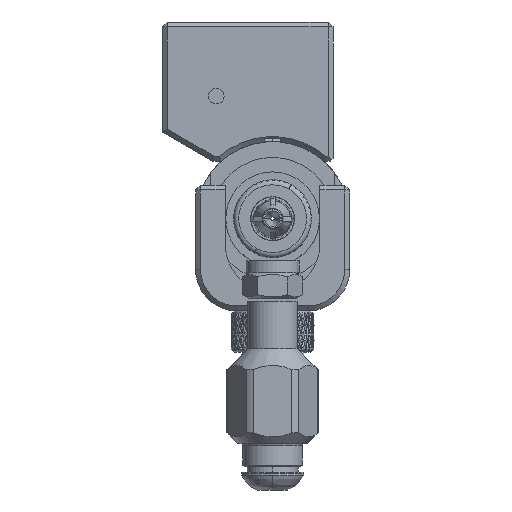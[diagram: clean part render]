
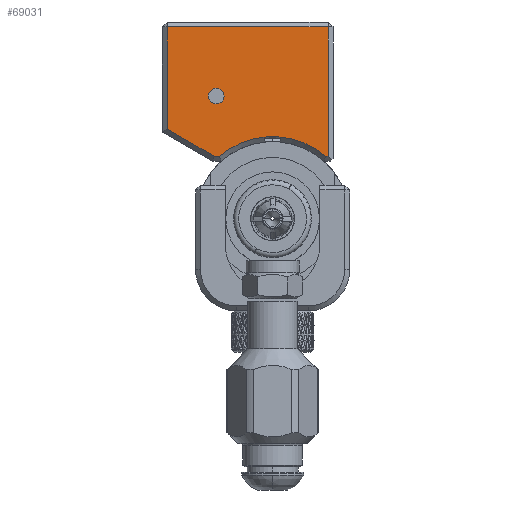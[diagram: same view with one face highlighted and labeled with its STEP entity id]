
A CAD part, front view. The second image highlights one B-rep face of the part: STEP entity #69031.
In plain terms, the highlighted planar face has unit normal (0, -1, 0).
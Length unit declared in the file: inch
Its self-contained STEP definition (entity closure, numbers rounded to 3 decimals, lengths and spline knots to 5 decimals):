
#232 = DIRECTION ( 'NONE',  ( 0., 1., 0. ) ) ;
#870 = LINE ( 'NONE', #6315, #66438 ) ;
#1528 = DIRECTION ( 'NONE',  ( 0., 0., 1. ) ) ;
#2540 = CIRCLE ( 'NONE', #12249, 0.495 ) ;
#3316 = ORIENTED_EDGE ( 'NONE', *, *, #59928, .T. ) ;
#3384 = FACE_OUTER_BOUND ( 'NONE', #20974, .T. ) ;
#3528 = EDGE_CURVE ( 'NONE', #36797, #46795, #70928, .T. ) ;
#5200 = VERTEX_POINT ( 'NONE', #53585 ) ;
#6315 = CARTESIAN_POINT ( 'NONE',  ( 0.335, -0.059, 0. ) ) ;
#7783 = ORIENTED_EDGE ( 'NONE', *, *, #57711, .T. ) ;
#7962 = DIRECTION ( 'NONE',  ( 0., 0., 1. ) ) ;
#8987 = VERTEX_POINT ( 'NONE', #55314 ) ;
#9013 = LINE ( 'NONE', #52123, #70142 ) ;
#11662 = ORIENTED_EDGE ( 'NONE', *, *, #20560, .T. ) ;
#12249 = AXIS2_PLACEMENT_3D ( 'NONE', #40272, #58035, #69884 ) ;
#13469 = EDGE_CURVE ( 'NONE', #60046, #47212, #67194, .T. ) ;
#14365 = VECTOR ( 'NONE', #19406, 39.37008 ) ;
#15680 = PLANE ( 'NONE',  #72030 ) ;
#17989 = EDGE_LOOP ( 'NONE', ( #3316, #31450 ) ) ;
#18047 = CARTESIAN_POINT ( 'NONE',  ( -0.34, -0.059, 0.74 ) ) ;
#18688 = CARTESIAN_POINT ( 'NONE',  ( 0., -0.059, 1.157 ) ) ;
#19406 = DIRECTION ( 'NONE',  ( -1., 0., 0. ) ) ;
#20560 = EDGE_CURVE ( 'NONE', #34057, #36797, #870, .T. ) ;
#20948 = CARTESIAN_POINT ( 'NONE',  ( 0., -0.059, 0. ) ) ;
#20974 = EDGE_LOOP ( 'NONE', ( #21608, #64689, #7783, #72840, #39106, #11662, #52220 ) ) ;
#21608 = ORIENTED_EDGE ( 'NONE', *, *, #28730, .T. ) ;
#22297 = VECTOR ( 'NONE', #52089, 39.37008 ) ;
#23725 = DIRECTION ( 'NONE',  ( 1., 0., 0. ) ) ;
#24509 = CARTESIAN_POINT ( 'NONE',  ( 0.335, -0.059, 1.157 ) ) ;
#27199 = AXIS2_PLACEMENT_3D ( 'NONE', #47905, #48163, #7962 ) ;
#27667 = FACE_BOUND ( 'NONE', #17989, .T. ) ;
#28730 = EDGE_CURVE ( 'NONE', #46795, #60046, #9013, .T. ) ;
#29071 = DIRECTION ( 'NONE',  ( 0., 0., 1. ) ) ;
#31450 = ORIENTED_EDGE ( 'NONE', *, *, #37245, .T. ) ;
#34057 = VERTEX_POINT ( 'NONE', #37646 ) ;
#34826 = LINE ( 'NONE', #58350, #45669 ) ;
#36797 = VERTEX_POINT ( 'NONE', #24509 ) ;
#36983 = AXIS2_PLACEMENT_3D ( 'NONE', #18047, #232, #29071 ) ;
#37245 = EDGE_CURVE ( 'NONE', #8987, #5200, #54943, .T. ) ;
#37646 = CARTESIAN_POINT ( 'NONE',  ( 0.335, -0.059, 0.37673 ) ) ;
#39106 = ORIENTED_EDGE ( 'NONE', *, *, #44173, .T. ) ;
#40168 = CIRCLE ( 'NONE', #27199, 0.04724 ) ;
#40272 = CARTESIAN_POINT ( 'NONE',  ( 0., -0.059, 0. ) ) ;
#41638 = CARTESIAN_POINT ( 'NONE',  ( 0.32109, -0.059, 0.37673 ) ) ;
#42010 = VECTOR ( 'NONE', #50969, 39.37008 ) ;
#44173 = EDGE_CURVE ( 'NONE', #61747, #34057, #34826, .T. ) ;
#44782 = LINE ( 'NONE', #74253, #22297 ) ;
#45669 = VECTOR ( 'NONE', #23725, 39.37008 ) ;
#46795 = VERTEX_POINT ( 'NONE', #73971 ) ;
#47212 = VERTEX_POINT ( 'NONE', #49749 ) ;
#47905 = CARTESIAN_POINT ( 'NONE',  ( -0.34, -0.059, 0.74 ) ) ;
#48163 = DIRECTION ( 'NONE',  ( 0., 1., 0. ) ) ;
#49749 = CARTESIAN_POINT ( 'NONE',  ( -0.35181, -0.059, 0.37673 ) ) ;
#50969 = DIRECTION ( 'NONE',  ( 0.866, 0., -0.5 ) ) ;
#52089 = DIRECTION ( 'NONE',  ( 1., 0., 0. ) ) ;
#52123 = CARTESIAN_POINT ( 'NONE',  ( -0.635, -0.059, 0. ) ) ;
#52220 = ORIENTED_EDGE ( 'NONE', *, *, #3528, .T. ) ;
#53585 = CARTESIAN_POINT ( 'NONE',  ( -0.34, -0.059, 0.78724 ) ) ;
#54943 = CIRCLE ( 'NONE', #36983, 0.04724 ) ;
#55147 = CARTESIAN_POINT ( 'NONE',  ( -0.635, -0.059, 0.54023 ) ) ;
#55314 = CARTESIAN_POINT ( 'NONE',  ( -0.34, -0.059, 0.69276 ) ) ;
#56017 = DIRECTION ( 'NONE',  ( 0., 0., 1. ) ) ;
#57711 = EDGE_CURVE ( 'NONE', #47212, #62755, #44782, .T. ) ;
#58035 = DIRECTION ( 'NONE',  ( 0., 1., 0. ) ) ;
#58350 = CARTESIAN_POINT ( 'NONE',  ( 0., -0.059, 0.37673 ) ) ;
#59332 = EDGE_CURVE ( 'NONE', #62755, #61747, #2540, .T. ) ;
#59928 = EDGE_CURVE ( 'NONE', #5200, #8987, #40168, .T. ) ;
#60046 = VERTEX_POINT ( 'NONE', #55147 ) ;
#61747 = VERTEX_POINT ( 'NONE', #41638 ) ;
#62104 = DIRECTION ( 'NONE',  ( 0., 1., 0. ) ) ;
#62755 = VERTEX_POINT ( 'NONE', #73610 ) ;
#62955 = DIRECTION ( 'NONE',  ( 0., 0., -1. ) ) ;
#64689 = ORIENTED_EDGE ( 'NONE', *, *, #13469, .T. ) ;
#66438 = VECTOR ( 'NONE', #1528, 39.37008 ) ;
#67194 = LINE ( 'NONE', #73636, #42010 ) ;
#69031 = ADVANCED_FACE ( 'NONE', ( #3384, #27667 ), #15680, .F. ) ;
#69884 = DIRECTION ( 'NONE',  ( 0., 0., 1. ) ) ;
#70142 = VECTOR ( 'NONE', #62955, 39.37008 ) ;
#70928 = LINE ( 'NONE', #18688, #14365 ) ;
#72030 = AXIS2_PLACEMENT_3D ( 'NONE', #20948, #62104, #56017 ) ;
#72840 = ORIENTED_EDGE ( 'NONE', *, *, #59332, .T. ) ;
#73610 = CARTESIAN_POINT ( 'NONE',  ( -0.32109, -0.059, 0.37673 ) ) ;
#73636 = CARTESIAN_POINT ( 'NONE',  ( 0.07518, -0.059, 0.13021 ) ) ;
#73971 = CARTESIAN_POINT ( 'NONE',  ( -0.635, -0.059, 1.157 ) ) ;
#74253 = CARTESIAN_POINT ( 'NONE',  ( 0., -0.059, 0.37673 ) ) ;
